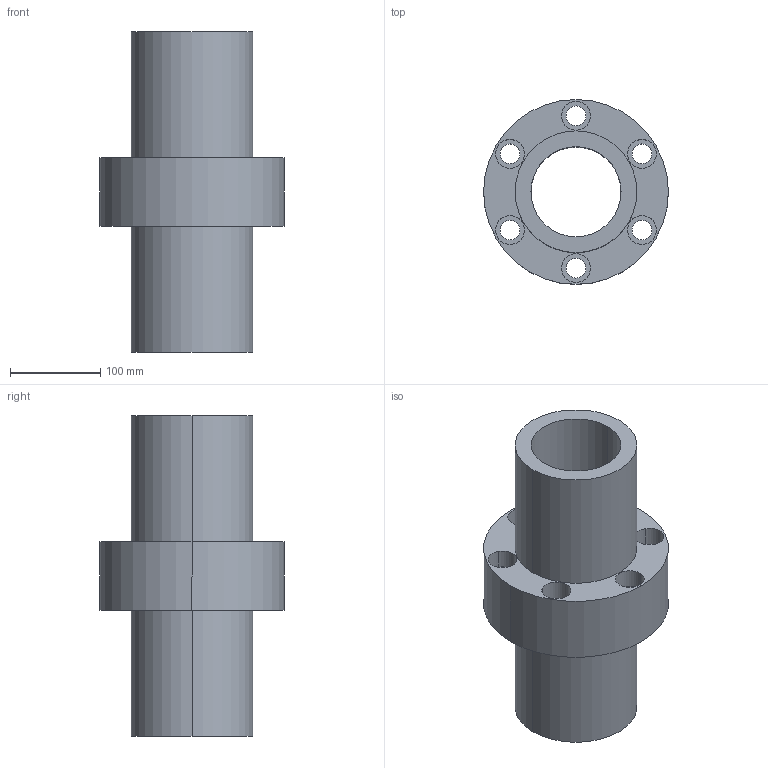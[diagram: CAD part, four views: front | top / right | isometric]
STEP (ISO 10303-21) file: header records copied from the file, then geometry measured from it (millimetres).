
FILE_DESCRIPTION((''),'2;1');
FILE_NAME('100-20T4','2008-04-07T',('yanyu'),(''),'PRO/ENGINEER BY PARAMETRIC TECHNOLOGY CORPORATION, 2005070','PRO/ENGINEER BY PARAMETRIC TECHNOLOGY CORPORATION, 2005070','');
FILE_SCHEMA(('CONFIG_CONTROL_DESIGN'));
Length unit declared in the file: millimetre
Products named in the file (1): 100-20T4
Bounding box: 205 x 205 x 356 mm (x, y, z)
Volume: 3492301.2 mm3; surface area: 360851.2 mm2
Topology: 1 solids, 1 shells, 42 faces, 100 edges, 68 vertices
Faces by surface type: cylinder 32, plane 10
Entity records: 1330 total; most frequent: DIRECTION 252, CARTESIAN_POINT 210, ORIENTED_EDGE 200, AXIS2_PLACEMENT_3D 110, EDGE_CURVE 100, VERTEX_POINT 68, CIRCLE 68, EDGE_LOOP 64
